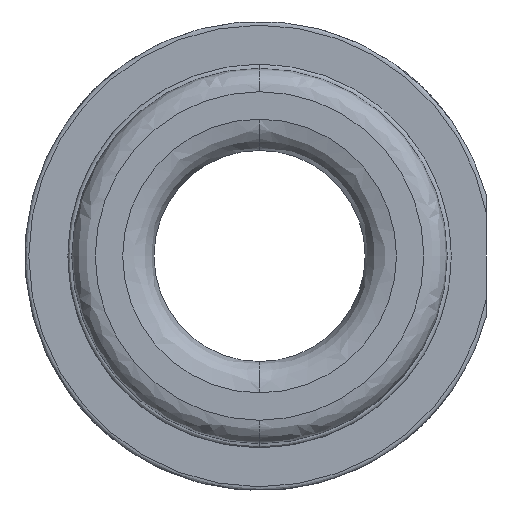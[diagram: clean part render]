
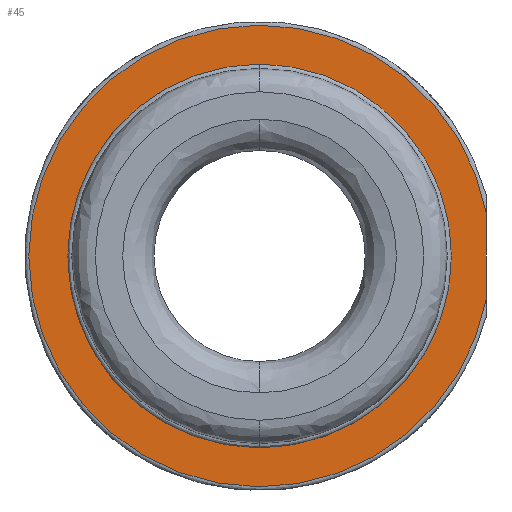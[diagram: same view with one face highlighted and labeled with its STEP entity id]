
A CAD part, left-side view. The second image highlights one B-rep face of the part: STEP entity #45.
In plain terms, the highlighted planar face has unit normal (-1, 0, 0).
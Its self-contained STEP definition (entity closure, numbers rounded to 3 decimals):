
#45=ADVANCED_FACE('',(#174,#175),#173,.F.);
#173=PLANE('',#993);
#174=FACE_OUTER_BOUND('',#994,.T.);
#175=FACE_BOUND('',#995,.T.);
#990=CARTESIAN_POINT('',(-6.5,-37.242,59.025));
#991=DIRECTION('',(1.,0.,0.));
#992=DIRECTION('',(0.,0.,-1.));
#993=AXIS2_PLACEMENT_3D('',#990,#991,#992);
#994=EDGE_LOOP('',(#1944,#1945));
#995=EDGE_LOOP('',(#1946,#1947));
#1944=ORIENTED_EDGE('',*,*,#2264,.F.);
#1945=ORIENTED_EDGE('',*,*,#2265,.T.);
#1946=ORIENTED_EDGE('',*,*,#2266,.T.);
#1947=ORIENTED_EDGE('',*,*,#2267,.T.);
#2264=EDGE_CURVE('',#2544,#2545,#2546,.T.);
#2265=EDGE_CURVE('',#2544,#2545,#2552,.T.);
#2266=EDGE_CURVE('',#2558,#2559,#2560,.T.);
#2267=EDGE_CURVE('',#2559,#2558,#2566,.T.);
#2544=VERTEX_POINT('',#3576);
#2545=VERTEX_POINT('',#3577);
#2546=LINE('',#3578,#3579);
#2552=CIRCLE('',#3584,29.5);
#2558=VERTEX_POINT('',#3585);
#2559=VERTEX_POINT('',#3586);
#2560=CIRCLE('',#3590,24.);
#2566=CIRCLE('',#3594,24.);
#3576=CARTESIAN_POINT('',(-6.5,-29.,5.408));
#3577=CARTESIAN_POINT('',(-6.5,-29.,-5.408));
#3578=CARTESIAN_POINT('',(-6.5,-29.,5.408));
#3579=VECTOR('',#3580,10.817);
#3580=DIRECTION('',(0.,0.,-1.));
#3581=CARTESIAN_POINT('',(-6.5,0.,0.));
#3582=DIRECTION('',(-1.,0.,0.));
#3583=DIRECTION('',(0.,-0.983,-0.183));
#3584=AXIS2_PLACEMENT_3D('',#3581,#3582,#3583);
#3585=CARTESIAN_POINT('',(-6.5,0.,-24.));
#3586=CARTESIAN_POINT('',(-6.5,0.,24.));
#3587=CARTESIAN_POINT('',(-6.5,0.,0.));
#3588=DIRECTION('',(1.,0.,0.));
#3589=DIRECTION('',(0.,0.,-1.));
#3590=AXIS2_PLACEMENT_3D('',#3587,#3588,#3589);
#3591=CARTESIAN_POINT('',(-6.5,0.,0.));
#3592=DIRECTION('',(1.,0.,0.));
#3593=DIRECTION('',(0.,0.,-1.));
#3594=AXIS2_PLACEMENT_3D('',#3591,#3592,#3593);
